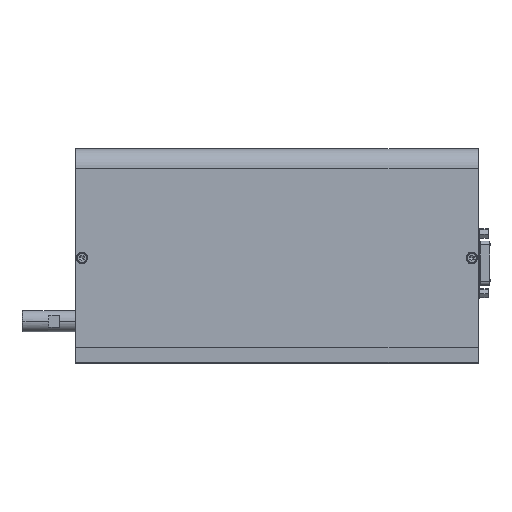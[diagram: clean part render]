
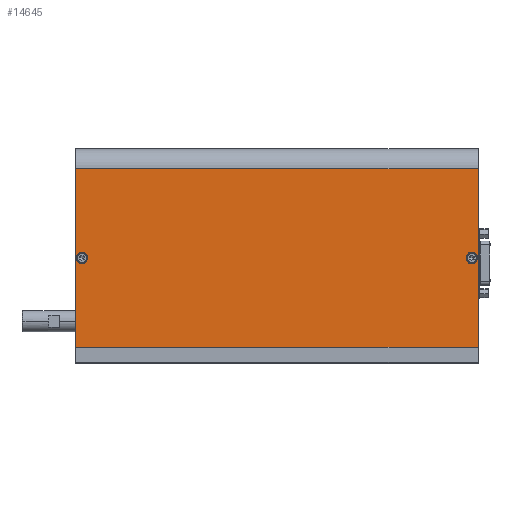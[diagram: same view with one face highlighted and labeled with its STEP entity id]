
A CAD part, top view. The second image highlights one B-rep face of the part: STEP entity #14645.
In plain terms, the highlighted planar face has unit normal (0, 0, 1).
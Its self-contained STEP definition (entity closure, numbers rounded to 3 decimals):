
#69 = EDGE_CURVE ( 'NONE', #16314, #4638, #11812, .T. ) ;
#504 = EDGE_CURVE ( 'NONE', #14797, #3473, #13711, .T. ) ;
#513 = ORIENTED_EDGE ( 'NONE', *, *, #69, .F. ) ;
#638 = CARTESIAN_POINT ( 'NONE',  ( 224.75, 58.854, 20. ) ) ;
#857 = VERTEX_POINT ( 'NONE', #17194 ) ;
#1189 = CIRCLE ( 'NONE', #3648, 3.25 ) ;
#1847 = CARTESIAN_POINT ( 'NONE',  ( 221.5, 58.854, 20. ) ) ;
#2028 = CIRCLE ( 'NONE', #14831, 3.25 ) ;
#2115 = CARTESIAN_POINT ( 'NONE',  ( 225., 108.654, 20. ) ) ;
#2206 = VERTEX_POINT ( 'NONE', #638 ) ;
#2216 = CARTESIAN_POINT ( 'NONE',  ( 0., 8.854, 20. ) ) ;
#2724 = CARTESIAN_POINT ( 'NONE',  ( 3.5, 58.854, 20. ) ) ;
#2944 = CARTESIAN_POINT ( 'NONE',  ( 225., 8.854, 20. ) ) ;
#3061 = AXIS2_PLACEMENT_3D ( 'NONE', #1847, #17517, #11949 ) ;
#3182 = CIRCLE ( 'NONE', #3061, 3.25 ) ;
#3275 = CARTESIAN_POINT ( 'NONE',  ( 221.5, 58.854, 20. ) ) ;
#3312 = DIRECTION ( 'NONE',  ( 0., 1., 0. ) ) ;
#3473 = VERTEX_POINT ( 'NONE', #9251 ) ;
#3560 = DIRECTION ( 'NONE',  ( 0., 0., 1. ) ) ;
#3648 = AXIS2_PLACEMENT_3D ( 'NONE', #6649, #12274, #16788 ) ;
#3779 = LINE ( 'NONE', #5214, #7090 ) ;
#4638 = VERTEX_POINT ( 'NONE', #2944 ) ;
#4956 = VECTOR ( 'NONE', #3312, 1000. ) ;
#4959 = CARTESIAN_POINT ( 'NONE',  ( 225., 108.654, 20. ) ) ;
#5214 = CARTESIAN_POINT ( 'NONE',  ( 0., 8.854, 20. ) ) ;
#5240 = ORIENTED_EDGE ( 'NONE', *, *, #9660, .F. ) ;
#5497 = DIRECTION ( 'NONE',  ( 1., 0., 0. ) ) ;
#6169 = CARTESIAN_POINT ( 'NONE',  ( 0., 8.854, 20. ) ) ;
#6466 = DIRECTION ( 'NONE',  ( 0., -1., 0. ) ) ;
#6649 = CARTESIAN_POINT ( 'NONE',  ( 3.5, 58.854, 20. ) ) ;
#6894 = EDGE_CURVE ( 'NONE', #14986, #857, #1189, .T. ) ;
#7029 = EDGE_CURVE ( 'NONE', #857, #14986, #17371, .T. ) ;
#7090 = VECTOR ( 'NONE', #15341, 1000. ) ;
#7262 = ORIENTED_EDGE ( 'NONE', *, *, #15254, .F. ) ;
#7660 = DIRECTION ( 'NONE',  ( 1., 0., 0. ) ) ;
#7990 = EDGE_LOOP ( 'NONE', ( #9110, #9778 ) ) ;
#7991 = CARTESIAN_POINT ( 'NONE',  ( 0., 8.854, 20. ) ) ;
#8049 = VERTEX_POINT ( 'NONE', #15977 ) ;
#8265 = VECTOR ( 'NONE', #6466, 1000. ) ;
#8517 = EDGE_CURVE ( 'NONE', #8049, #2206, #2028, .T. ) ;
#8569 = CARTESIAN_POINT ( 'NONE',  ( 225., 8.854, 20. ) ) ;
#8946 = EDGE_LOOP ( 'NONE', ( #513, #16168, #17347, #5240 ) ) ;
#9088 = DIRECTION ( 'NONE',  ( 0., 0., 1. ) ) ;
#9110 = ORIENTED_EDGE ( 'NONE', *, *, #6894, .F. ) ;
#9251 = CARTESIAN_POINT ( 'NONE',  ( 0., 108.654, 20. ) ) ;
#9387 = AXIS2_PLACEMENT_3D ( 'NONE', #2216, #3560, #15403 ) ;
#9660 = EDGE_CURVE ( 'NONE', #4638, #14797, #3779, .T. ) ;
#9778 = ORIENTED_EDGE ( 'NONE', *, *, #7029, .F. ) ;
#10644 = AXIS2_PLACEMENT_3D ( 'NONE', #2724, #12751, #5497 ) ;
#10704 = FACE_BOUND ( 'NONE', #7990, .T. ) ;
#11812 = LINE ( 'NONE', #8569, #8265 ) ;
#11949 = DIRECTION ( 'NONE',  ( 1., 0., 0. ) ) ;
#12229 = PLANE ( 'NONE',  #9387 ) ;
#12274 = DIRECTION ( 'NONE',  ( 0., 0., 1. ) ) ;
#12751 = DIRECTION ( 'NONE',  ( 0., 0., 1. ) ) ;
#13322 = ORIENTED_EDGE ( 'NONE', *, *, #8517, .F. ) ;
#13711 = LINE ( 'NONE', #6169, #4956 ) ;
#13833 = DIRECTION ( 'NONE',  ( -1., 0., 0. ) ) ;
#14645 = ADVANCED_FACE ( 'NONE', ( #10704, #16837, #15307 ), #12229, .T. ) ;
#14797 = VERTEX_POINT ( 'NONE', #7991 ) ;
#14831 = AXIS2_PLACEMENT_3D ( 'NONE', #3275, #9088, #7660 ) ;
#14986 = VERTEX_POINT ( 'NONE', #15701 ) ;
#15226 = EDGE_LOOP ( 'NONE', ( #7262, #13322 ) ) ;
#15254 = EDGE_CURVE ( 'NONE', #2206, #8049, #3182, .T. ) ;
#15307 = FACE_OUTER_BOUND ( 'NONE', #8946, .T. ) ;
#15341 = DIRECTION ( 'NONE',  ( -1., 0., 0. ) ) ;
#15403 = DIRECTION ( 'NONE',  ( 1., 0., 0. ) ) ;
#15701 = CARTESIAN_POINT ( 'NONE',  ( 6.75, 58.854, 20. ) ) ;
#15977 = CARTESIAN_POINT ( 'NONE',  ( 218.25, 58.854, 20. ) ) ;
#16168 = ORIENTED_EDGE ( 'NONE', *, *, #16731, .T. ) ;
#16314 = VERTEX_POINT ( 'NONE', #2115 ) ;
#16731 = EDGE_CURVE ( 'NONE', #16314, #3473, #18043, .T. ) ;
#16788 = DIRECTION ( 'NONE',  ( 1., 0., 0. ) ) ;
#16837 = FACE_BOUND ( 'NONE', #15226, .T. ) ;
#17194 = CARTESIAN_POINT ( 'NONE',  ( 0.25, 58.854, 20. ) ) ;
#17347 = ORIENTED_EDGE ( 'NONE', *, *, #504, .F. ) ;
#17371 = CIRCLE ( 'NONE', #10644, 3.25 ) ;
#17517 = DIRECTION ( 'NONE',  ( 0., 0., 1. ) ) ;
#17729 = VECTOR ( 'NONE', #13833, 1000. ) ;
#18043 = LINE ( 'NONE', #4959, #17729 ) ;
